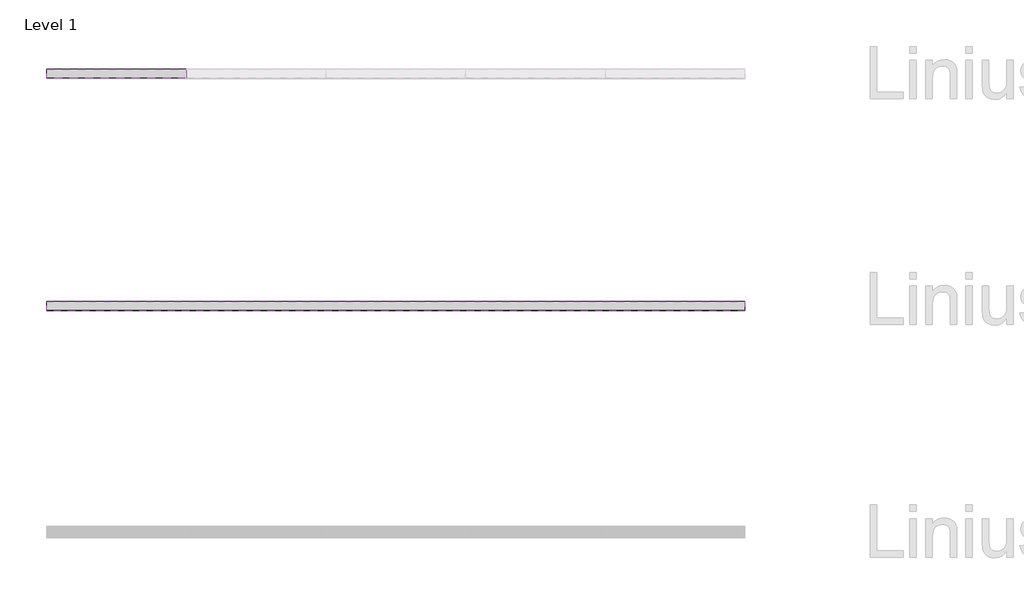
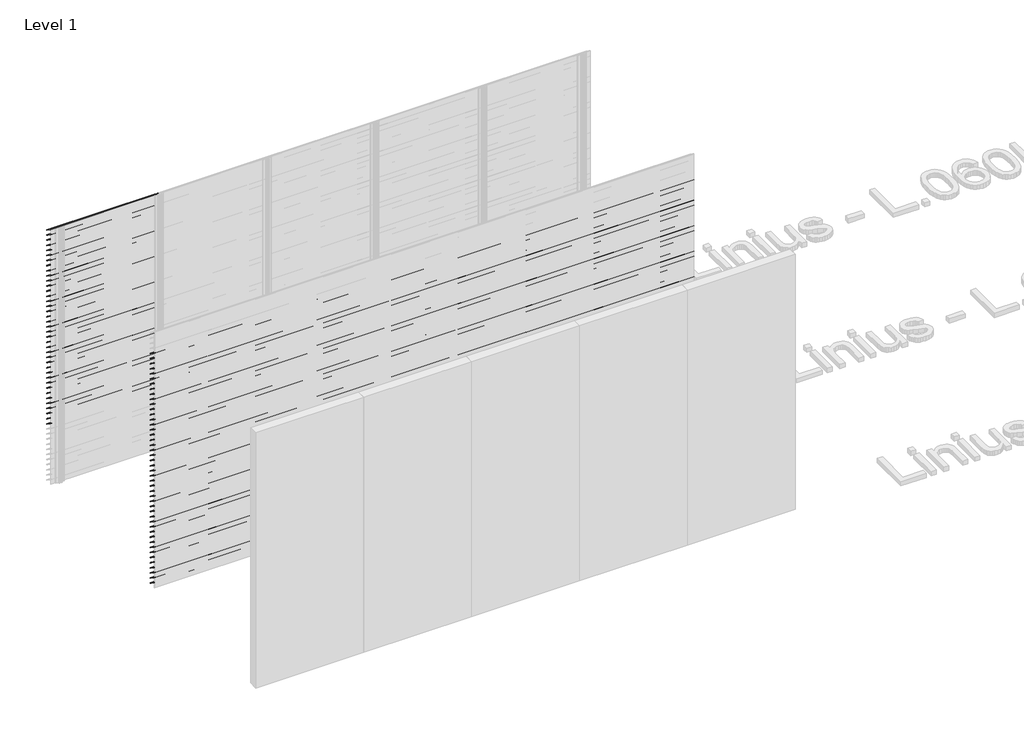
# One storey, part 7 of 153: 85 proxies.
"""IFC4 building model written with IfcOpenShell, lengths in millimetres."""

import ifcopenshell
import ifcopenshell.guid

model = None  # the IFC model being written
_history = None  # IfcOwnerHistory: only IFC2X3 demands one
_inside = {}  # id of a spatial element -> (the spatial element, [elements in it])
_under = {}  # id of a project, library or spatial element -> (it, [spatial elements below it])
_declared = {}  # id of a project -> (the project, [libraries it declares])
_typed = {}  # id of a type object -> (the type object, [elements of that type])
_made_of = {}  # id of a material, layer set ... -> (it, [elements and type objects made of it])


def new_model(schema):
    """Start an empty IFC model of exactly this schema.

    Asked for "IFC4X3", IfcOpenShell would pick the latest addendum, in which some entities
    have other attributes; the version numbers below select the first issue.
    IFC2X3 requires an IfcOwnerHistory on every rooted entity: one is made here for all.
    """
    global model, _history
    if schema == "IFC4X3":
        model = ifcopenshell.file(schema_version=(4, 3, 0, 0))
    else:
        model = ifcopenshell.file(schema=schema)
    _inside.clear()
    _under.clear()
    _declared.clear()
    _typed.clear()
    _made_of.clear()
    _history = None
    if model.schema == "IFC2X3":
        org = make("IfcOrganization", Name="unknown")
        user = make(
            "IfcPersonAndOrganization",
            ThePerson=make("IfcPerson", FamilyName="unknown"),
            TheOrganization=org,
        )
        app = make(
            "IfcApplication",
            ApplicationDeveloper=org,
            Version="unknown",
            ApplicationFullName="unknown",
            ApplicationIdentifier="unknown",
        )
        _history = make(
            "IfcOwnerHistory",
            OwningUser=user,
            OwningApplication=app,
            ChangeAction="ADDED",
            CreationDate=0,
        )
    return model


def make(cls, **values):
    """One entity of the class cls with the attributes given. An attribute that is None is left unset."""
    return model.create_entity(
        cls, **{name: value for name, value in values.items() if value is not None}
    )


def rooted(cls, **values):
    """An entity with a GlobalId (a new one), such as an element, a storey or a relation."""
    return make(cls, GlobalId=ifcopenshell.guid.new(), OwnerHistory=_history, **values)


def si_unit(unit_type, name, prefix=None):
    """IfcSIUnit, for example si_unit("LENGTHUNIT", "METRE", prefix="MILLI")."""
    return make("IfcSIUnit", UnitType=unit_type, Prefix=prefix, Name=name)


def assignment(units):
    """IfcUnitAssignment: the units of a project."""
    return None if units is None else make("IfcUnitAssignment", Units=units)


def point(xyz):
    """IfcCartesianPoint."""
    return None if xyz is None else make("IfcCartesianPoint", Coordinates=xyz)


def direction(xyz):
    """IfcDirection."""
    return None if xyz is None else make("IfcDirection", DirectionRatios=xyz)


def frame(location, z_axis=None, x_axis=None):
    """IfcAxis2Placement3D, a coordinate frame: its origin and axes. An axis left out is left unset."""
    return make(
        "IfcAxis2Placement3D",
        Location=point(location),
        Axis=direction(z_axis),
        RefDirection=direction(x_axis),
    )


def origin():
    """The frame at (0, 0, 0) with its axes left unset."""
    return frame((0.0, 0.0, 0.0))


def place(relative_to, where):
    """IfcLocalPlacement: puts the frame where relative to a parent placement (None: the world)."""
    return make(
        "IfcLocalPlacement", PlacementRelTo=relative_to, RelativePlacement=where
    )


def context(
    kind, dimensions, precision=None, world=None, true_north=None, identifier=None
):
    """IfcGeometricRepresentationContext, for example the 3D "Model" context."""
    return make(
        "IfcGeometricRepresentationContext",
        ContextIdentifier=identifier,
        ContextType=kind,
        CoordinateSpaceDimension=dimensions,
        Precision=precision,
        WorldCoordinateSystem=world,
        TrueNorth=true_north,
    )


def project(units=None, contexts=None):
    """IfcProject with its units and contexts."""
    return rooted(
        "IfcProject",
        Name="project",
        RepresentationContexts=contexts,
        UnitsInContext=assignment(units),
    )


def spatial(cls, under=None, at=None, **own):
    """A site, building, storey or space (cls), placed at a placement, below another one or the project."""
    s = rooted(cls, ObjectPlacement=at, **own)
    if under is not None:
        _under.setdefault(under.id(), (under, []))[1].append(s)
    return s


def polyline(points):
    """IfcPolyline through the points."""
    return make("IfcPolyline", Points=[point(p) for p in points])


def outline(outer, holes=None, kind="AREA"):
    """IfcArbitraryClosedProfileDef: a profile drawn as a closed curve; with holes, ...WithVoids."""
    if holes is None:
        return make("IfcArbitraryClosedProfileDef", ProfileType=kind, OuterCurve=outer)
    return make(
        "IfcArbitraryProfileDefWithVoids",
        ProfileType=kind,
        OuterCurve=outer,
        InnerCurves=holes,
    )


def extrude(swept, where, along, depth):
    """IfcExtrudedAreaSolid: the profile swept, set in the frame where, extruded along a direction by depth."""
    return make(
        "IfcExtrudedAreaSolid",
        SweptArea=swept,
        Position=where,
        ExtrudedDirection=direction(along),
        Depth=depth,
    )


def shape(context_of_items, identifier, shape_type, items):
    """IfcShapeRepresentation: the items that make up one representation, for example the "Body"."""
    return make(
        "IfcShapeRepresentation",
        ContextOfItems=context_of_items,
        RepresentationIdentifier=identifier,
        RepresentationType=shape_type,
        Items=items,
    )


def made_of(thing, what):
    """Note that an element or type object is made of a material, layer set ...; save() writes the relation."""
    if what is not None:
        _made_of.setdefault(what.id(), (what, []))[1].append(thing)
    return thing


def element(
    cls,
    number,
    at=None,
    inside=None,
    cuts=None,
    type_object=None,
    material=None,
    context=None,
    identifier="Body",
    shape_type=None,
    held_by="IfcProductDefinitionShape",
    body=None,
    shapes=None,
    **own,
):
    """One element of the class cls, such as IfcWall. Its Tag is "e" and its number.

    at: its placement. inside: the storey or other place that contains it. cuts: it is an
    opening in that element (IfcRelVoidsElement). A single representation is given by context,
    identifier, shape_type and body (its items); several are given by shapes. held_by: the class
    of the entity that holds the representations. save() writes the other relations.
    """
    e = rooted(cls, Tag="e%d" % number, ObjectPlacement=at, **own)
    if body is not None:
        shapes = [shape(context, identifier, shape_type, body)]
    if shapes is not None:
        e.Representation = make(held_by, Representations=shapes)
    if inside is not None:
        _inside.setdefault(inside.id(), (inside, []))[1].append(e)
    if cuts is not None:
        rooted(
            "IfcRelVoidsElement", RelatingBuildingElement=cuts, RelatedOpeningElement=e
        )
    if type_object is not None:
        _typed.setdefault(type_object.id(), (type_object, []))[1].append(e)
    return made_of(e, material)


def aggregate(whole, parts):
    """IfcRelAggregates: a whole, such as a stair, and the parts it consists of."""
    return rooted("IfcRelAggregates", RelatingObject=whole, RelatedObjects=parts)


def save(model, path):
    """Write the relations noted so far, then the file.

    IfcRelAggregates (storeys below a building ...), IfcRelContainedInSpatialStructure (elements
    in a storey), IfcRelDefinesByType, IfcRelAssociatesMaterial and IfcRelDeclares: one each for
    every whole, place, type object, material and project.
    """
    for whole, parts in _under.values():
        aggregate(whole, parts)
    for where, things in _inside.values():
        rooted(
            "IfcRelContainedInSpatialStructure",
            RelatedElements=things,
            RelatingStructure=where,
        )
    for kind, things in _typed.values():
        rooted("IfcRelDefinesByType", RelatedObjects=things, RelatingType=kind)
    for what, things in _made_of.values():
        rooted("IfcRelAssociatesMaterial", RelatedObjects=things, RelatingMaterial=what)
    for by, libraries in _declared.values():
        rooted("IfcRelDeclares", RelatingContext=by, RelatedDefinitions=libraries)
    model.write(path)


model = new_model("IFC4")

# Units and contexts
model_context = context("Model", 3, world=origin())
ifc_project = project(units=[si_unit("LENGTHUNIT", "METRE", prefix="MILLI")], contexts=[model_context])

# Site, building, storey
site = spatial("IfcSite", under=ifc_project)
building = spatial("IfcBuilding", under=site)
storey = spatial("IfcBuildingStorey", under=building, Name="Level 1", Elevation=0.0)

# Proxies
placement = place(None, origin())
element("IfcBuildingElementProxy", 1, Name="Wall Sweeps", at=placement, inside=storey, context=model_context, shape_type="SweptSolid", body=[
    extrude(outline(polyline([(7065.0270068, 2946.0), (7065.0270068, 2940.0), (7063.7770068, 2940.7216933), (7063.7770068, 2945.2538091), (6987.0270068, 2993.9915103), (6987.0270068, 3000.0), (6988.2770068, 3000.0), (6988.2770068, 2994.7377012), (7065.0270068, 2946.0)])), frame((466.6208097, 0.0, 0.0), z_axis=(1.0, 0.0, 0.0), x_axis=(0.0, 1.0, 0.0)), (0.0, 0.0, 1.0), 1200.0000002),
])
element("IfcBuildingElementProxy", 2, Name="Wall Sweeps", at=placement, inside=storey, context=model_context, shape_type="SweptSolid", body=[
    extrude(outline(polyline([(7065.0270068, 2886.0), (7065.0270068, 2880.0), (7063.7770068, 2880.7216933), (7063.7770068, 2885.2538091), (6987.0270068, 2933.9915103), (6987.0270068, 2940.0), (6988.2770068, 2940.0), (6988.2770068, 2934.7377012), (7065.0270068, 2886.0)])), frame((466.6208097, 0.0, 0.0), z_axis=(1.0, 0.0, 0.0), x_axis=(0.0, 1.0, 0.0)), (0.0, 0.0, 1.0), 1200.0000002),
])
element("IfcBuildingElementProxy", 3, Name="Wall Sweeps", at=placement, inside=storey, context=model_context, shape_type="SweptSolid", body=[
    extrude(outline(polyline([(7065.0270068, 2826.0), (7065.0270068, 2820.0), (7063.7770068, 2820.7216933), (7063.7770068, 2825.2538091), (6987.0270068, 2873.9915103), (6987.0270068, 2880.0), (6988.2770068, 2880.0), (6988.2770068, 2874.7377012), (7065.0270068, 2826.0)])), frame((466.6208097, 0.0, 0.0), z_axis=(1.0, 0.0, 0.0), x_axis=(0.0, 1.0, 0.0)), (0.0, 0.0, 1.0), 1200.0000002),
])
element("IfcBuildingElementProxy", 4, Name="Wall Sweeps", at=placement, inside=storey, context=model_context, shape_type="SweptSolid", body=[
    extrude(outline(polyline([(7065.0270068, 2766.0), (7065.0270068, 2760.0), (7063.7770068, 2760.7216933), (7063.7770068, 2765.2538091), (6987.0270068, 2813.9915103), (6987.0270068, 2820.0), (6988.2770068, 2820.0), (6988.2770068, 2814.7377012), (7065.0270068, 2766.0)])), frame((466.6208097, 0.0, 0.0), z_axis=(1.0, 0.0, 0.0), x_axis=(0.0, 1.0, 0.0)), (0.0, 0.0, 1.0), 1200.0000002),
])
element("IfcBuildingElementProxy", 5, Name="Wall Sweeps", at=placement, inside=storey, context=model_context, shape_type="SweptSolid", body=[
    extrude(outline(polyline([(7065.0270068, 2706.0), (7065.0270068, 2700.0), (7063.7770068, 2700.7216933), (7063.7770068, 2705.2538091), (6987.0270068, 2753.9915103), (6987.0270068, 2760.0), (6988.2770068, 2760.0), (6988.2770068, 2754.7377012), (7065.0270068, 2706.0)])), frame((466.6208097, 0.0, 0.0), z_axis=(1.0, 0.0, 0.0), x_axis=(0.0, 1.0, 0.0)), (0.0, 0.0, 1.0), 1200.0000002),
])
element("IfcBuildingElementProxy", 6, Name="Wall Sweeps", at=placement, inside=storey, context=model_context, shape_type="SweptSolid", body=[
    extrude(outline(polyline([(7065.0270068, 2646.0), (7065.0270068, 2640.0), (7063.7770068, 2640.7216933), (7063.7770068, 2645.2538091), (6987.0270068, 2693.9915103), (6987.0270068, 2700.0), (6988.2770068, 2700.0), (6988.2770068, 2694.7377012), (7065.0270068, 2646.0)])), frame((466.6208097, 0.0, 0.0), z_axis=(1.0, 0.0, 0.0), x_axis=(0.0, 1.0, 0.0)), (0.0, 0.0, 1.0), 1200.0000002),
])
element("IfcBuildingElementProxy", 7, Name="Wall Sweeps", at=placement, inside=storey, context=model_context, shape_type="SweptSolid", body=[
    extrude(outline(polyline([(7065.0270068, 2586.0), (7065.0270068, 2580.0), (7063.7770068, 2580.7216933), (7063.7770068, 2585.2538091), (6987.0270068, 2633.9915103), (6987.0270068, 2640.0), (6988.2770068, 2640.0), (6988.2770068, 2634.7377012), (7065.0270068, 2586.0)])), frame((466.6208097, 0.0, 0.0), z_axis=(1.0, 0.0, 0.0), x_axis=(0.0, 1.0, 0.0)), (0.0, 0.0, 1.0), 1200.0000002),
])
element("IfcBuildingElementProxy", 8, Name="Wall Sweeps", at=placement, inside=storey, context=model_context, shape_type="SweptSolid", body=[
    extrude(outline(polyline([(7065.0270068, 2526.0), (7065.0270068, 2520.0), (7063.7770068, 2520.7216933), (7063.7770068, 2525.2538091), (6987.0270068, 2573.9915103), (6987.0270068, 2580.0), (6988.2770068, 2580.0), (6988.2770068, 2574.7377012), (7065.0270068, 2526.0)])), frame((466.6208097, 0.0, 0.0), z_axis=(1.0, 0.0, 0.0), x_axis=(0.0, 1.0, 0.0)), (0.0, 0.0, 1.0), 1200.0000002),
])
element("IfcBuildingElementProxy", 9, Name="Wall Sweeps", at=placement, inside=storey, context=model_context, shape_type="SweptSolid", body=[
    extrude(outline(polyline([(7065.0270068, 2466.0), (7065.0270068, 2460.0), (7063.7770068, 2460.7216933), (7063.7770068, 2465.2538091), (6987.0270068, 2513.9915103), (6987.0270068, 2520.0), (6988.2770068, 2520.0), (6988.2770068, 2514.7377012), (7065.0270068, 2466.0)])), frame((466.6208097, 0.0, 0.0), z_axis=(1.0, 0.0, 0.0), x_axis=(0.0, 1.0, 0.0)), (0.0, 0.0, 1.0), 1200.0000002),
])
element("IfcBuildingElementProxy", 10, Name="Wall Sweeps", at=placement, inside=storey, context=model_context, shape_type="SweptSolid", body=[
    extrude(outline(polyline([(7065.0270068, 2406.0), (7065.0270068, 2400.0), (7063.7770068, 2400.7216933), (7063.7770068, 2405.2538091), (6987.0270068, 2453.9915103), (6987.0270068, 2460.0), (6988.2770068, 2460.0), (6988.2770068, 2454.7377012), (7065.0270068, 2406.0)])), frame((466.6208097, 0.0, 0.0), z_axis=(1.0, 0.0, 0.0), x_axis=(0.0, 1.0, 0.0)), (0.0, 0.0, 1.0), 1200.0000002),
])
element("IfcBuildingElementProxy", 11, Name="Wall Sweeps", at=placement, inside=storey, context=model_context, shape_type="SweptSolid", body=[
    extrude(outline(polyline([(7065.0270068, 2346.0), (7065.0270068, 2340.0), (7063.7770068, 2340.7216933), (7063.7770068, 2345.2538091), (6987.0270068, 2393.9915103), (6987.0270068, 2400.0), (6988.2770068, 2400.0), (6988.2770068, 2394.7377012), (7065.0270068, 2346.0)])), frame((466.6208097, 0.0, 0.0), z_axis=(1.0, 0.0, 0.0), x_axis=(0.0, 1.0, 0.0)), (0.0, 0.0, 1.0), 1200.0000002),
])
element("IfcBuildingElementProxy", 12, Name="Wall Sweeps", at=placement, inside=storey, context=model_context, shape_type="SweptSolid", body=[
    extrude(outline(polyline([(7065.0270068, 2286.0), (7065.0270068, 2280.0), (7063.7770068, 2280.7216933), (7063.7770068, 2285.2538091), (6987.0270068, 2333.9915103), (6987.0270068, 2340.0), (6988.2770068, 2340.0), (6988.2770068, 2334.7377012), (7065.0270068, 2286.0)])), frame((466.6208097, 0.0, 0.0), z_axis=(1.0, 0.0, 0.0), x_axis=(0.0, 1.0, 0.0)), (0.0, 0.0, 1.0), 1200.0000002),
])
element("IfcBuildingElementProxy", 13, Name="Wall Sweeps", at=placement, inside=storey, context=model_context, shape_type="SweptSolid", body=[
    extrude(outline(polyline([(7065.0270068, 2226.0), (7065.0270068, 2220.0), (7063.7770068, 2220.7216933), (7063.7770068, 2225.2538091), (6987.0270068, 2273.9915103), (6987.0270068, 2280.0), (6988.2770068, 2280.0), (6988.2770068, 2274.7377012), (7065.0270068, 2226.0)])), frame((466.6208097, 0.0, 0.0), z_axis=(1.0, 0.0, 0.0), x_axis=(0.0, 1.0, 0.0)), (0.0, 0.0, 1.0), 1200.0000002),
])
element("IfcBuildingElementProxy", 14, Name="Wall Sweeps", at=placement, inside=storey, context=model_context, shape_type="SweptSolid", body=[
    extrude(outline(polyline([(7065.0270068, 2166.0), (7065.0270068, 2160.0), (7063.7770068, 2160.7216933), (7063.7770068, 2165.2538091), (6987.0270068, 2213.9915103), (6987.0270068, 2220.0), (6988.2770068, 2220.0), (6988.2770068, 2214.7377012), (7065.0270068, 2166.0)])), frame((466.6208097, 0.0, 0.0), z_axis=(1.0, 0.0, 0.0), x_axis=(0.0, 1.0, 0.0)), (0.0, 0.0, 1.0), 1200.0000002),
])
element("IfcBuildingElementProxy", 15, Name="Wall Sweeps", at=placement, inside=storey, context=model_context, shape_type="SweptSolid", body=[
    extrude(outline(polyline([(7065.0270068, 2106.0), (7065.0270068, 2100.0), (7063.7770068, 2100.7216933), (7063.7770068, 2105.2538091), (6987.0270068, 2153.9915103), (6987.0270068, 2160.0), (6988.2770068, 2160.0), (6988.2770068, 2154.7377012), (7065.0270068, 2106.0)])), frame((466.6208097, 0.0, 0.0), z_axis=(1.0, 0.0, 0.0), x_axis=(0.0, 1.0, 0.0)), (0.0, 0.0, 1.0), 1200.0000002),
])
element("IfcBuildingElementProxy", 16, Name="Wall Sweeps", at=placement, inside=storey, context=model_context, shape_type="SweptSolid", body=[
    extrude(outline(polyline([(7065.0270068, 2046.0), (7065.0270068, 2040.0), (7063.7770068, 2040.7216933), (7063.7770068, 2045.2538091), (6987.0270068, 2093.9915103), (6987.0270068, 2100.0), (6988.2770068, 2100.0), (6988.2770068, 2094.7377012), (7065.0270068, 2046.0)])), frame((466.6208097, 0.0, 0.0), z_axis=(1.0, 0.0, 0.0), x_axis=(0.0, 1.0, 0.0)), (0.0, 0.0, 1.0), 1200.0000002),
])
element("IfcBuildingElementProxy", 17, Name="Wall Sweeps", at=placement, inside=storey, context=model_context, shape_type="SweptSolid", body=[
    extrude(outline(polyline([(7065.0270068, 1986.0), (7065.0270068, 1980.0), (7063.7770068, 1980.7216933), (7063.7770068, 1985.2538091), (6987.0270068, 2033.9915103), (6987.0270068, 2040.0), (6988.2770068, 2040.0), (6988.2770068, 2034.7377012), (7065.0270068, 1986.0)])), frame((466.6208097, 0.0, 0.0), z_axis=(1.0, 0.0, 0.0), x_axis=(0.0, 1.0, 0.0)), (0.0, 0.0, 1.0), 1200.0000002),
])
element("IfcBuildingElementProxy", 18, Name="Wall Sweeps", at=placement, inside=storey, context=model_context, shape_type="SweptSolid", body=[
    extrude(outline(polyline([(7065.0270068, 1926.0), (7065.0270068, 1920.0), (7063.7770068, 1920.7216933), (7063.7770068, 1925.2538091), (6987.0270068, 1973.9915103), (6987.0270068, 1980.0), (6988.2770068, 1980.0), (6988.2770068, 1974.7377012), (7065.0270068, 1926.0)])), frame((466.6208097, 0.0, 0.0), z_axis=(1.0, 0.0, 0.0), x_axis=(0.0, 1.0, 0.0)), (0.0, 0.0, 1.0), 1200.0000002),
])
element("IfcBuildingElementProxy", 19, Name="Wall Sweeps", at=placement, inside=storey, context=model_context, shape_type="SweptSolid", body=[
    extrude(outline(polyline([(7065.0270068, 1866.0), (7065.0270068, 1860.0), (7063.7770068, 1860.7216933), (7063.7770068, 1865.2538091), (6987.0270068, 1913.9915103), (6987.0270068, 1920.0), (6988.2770068, 1920.0), (6988.2770068, 1914.7377012), (7065.0270068, 1866.0)])), frame((466.6208097, 0.0, 0.0), z_axis=(1.0, 0.0, 0.0), x_axis=(0.0, 1.0, 0.0)), (0.0, 0.0, 1.0), 1200.0000002),
])
element("IfcBuildingElementProxy", 20, Name="Wall Sweeps", at=placement, inside=storey, context=model_context, shape_type="SweptSolid", body=[
    extrude(outline(polyline([(7065.0270068, 1806.0), (7065.0270068, 1800.0), (7063.7770068, 1800.7216933), (7063.7770068, 1805.2538091), (6987.0270068, 1853.9915103), (6987.0270068, 1860.0), (6988.2770068, 1860.0), (6988.2770068, 1854.7377012), (7065.0270068, 1806.0)])), frame((466.6208097, 0.0, 0.0), z_axis=(1.0, 0.0, 0.0), x_axis=(0.0, 1.0, 0.0)), (0.0, 0.0, 1.0), 1200.0000002),
])
element("IfcBuildingElementProxy", 21, Name="Wall Sweeps", at=placement, inside=storey, context=model_context, shape_type="SweptSolid", body=[
    extrude(outline(polyline([(7065.0270068, 1746.0), (7065.0270068, 1740.0), (7063.7770068, 1740.7216933), (7063.7770068, 1745.2538091), (6987.0270068, 1793.9915103), (6987.0270068, 1800.0), (6988.2770068, 1800.0), (6988.2770068, 1794.7377012), (7065.0270068, 1746.0)])), frame((466.6208097, 0.0, 0.0), z_axis=(1.0, 0.0, 0.0), x_axis=(0.0, 1.0, 0.0)), (0.0, 0.0, 1.0), 1200.0000002),
])
element("IfcBuildingElementProxy", 22, Name="Wall Sweeps", at=placement, inside=storey, context=model_context, shape_type="SweptSolid", body=[
    extrude(outline(polyline([(7065.0270068, 1686.0), (7065.0270068, 1680.0), (7063.7770068, 1680.7216933), (7063.7770068, 1685.2538091), (6987.0270068, 1733.9915103), (6987.0270068, 1740.0), (6988.2770068, 1740.0), (6988.2770068, 1734.7377012), (7065.0270068, 1686.0)])), frame((466.6208097, 0.0, 0.0), z_axis=(1.0, 0.0, 0.0), x_axis=(0.0, 1.0, 0.0)), (0.0, 0.0, 1.0), 1200.0000002),
])
element("IfcBuildingElementProxy", 23, Name="Wall Sweeps", at=placement, inside=storey, context=model_context, shape_type="SweptSolid", body=[
    extrude(outline(polyline([(7065.0270068, 1626.0), (7065.0270068, 1620.0), (7063.7770068, 1620.7216933), (7063.7770068, 1625.2538091), (6987.0270068, 1673.9915103), (6987.0270068, 1680.0), (6988.2770068, 1680.0), (6988.2770068, 1674.7377012), (7065.0270068, 1626.0)])), frame((466.6208097, 0.0, 0.0), z_axis=(1.0, 0.0, 0.0), x_axis=(0.0, 1.0, 0.0)), (0.0, 0.0, 1.0), 1200.0000002),
])
element("IfcBuildingElementProxy", 24, Name="Wall Sweeps", at=placement, inside=storey, context=model_context, shape_type="SweptSolid", body=[
    extrude(outline(polyline([(7065.0270068, 1566.0), (7065.0270068, 1560.0), (7063.7770068, 1560.7216933), (7063.7770068, 1565.2538091), (6987.0270068, 1613.9915103), (6987.0270068, 1620.0), (6988.2770068, 1620.0), (6988.2770068, 1614.7377012), (7065.0270068, 1566.0)])), frame((466.6208097, 0.0, 0.0), z_axis=(1.0, 0.0, 0.0), x_axis=(0.0, 1.0, 0.0)), (0.0, 0.0, 1.0), 1200.0000002),
])
element("IfcBuildingElementProxy", 25, Name="Wall Sweeps", at=placement, inside=storey, context=model_context, shape_type="SweptSolid", body=[
    extrude(outline(polyline([(7065.0270068, 1506.0), (7065.0270068, 1500.0), (7063.7770068, 1500.7216933), (7063.7770068, 1505.2538091), (6987.0270068, 1553.9915103), (6987.0270068, 1560.0), (6988.2770068, 1560.0), (6988.2770068, 1554.7377012), (7065.0270068, 1506.0)])), frame((466.6208097, 0.0, 0.0), z_axis=(1.0, 0.0, 0.0), x_axis=(0.0, 1.0, 0.0)), (0.0, 0.0, 1.0), 1200.0000002),
])
element("IfcBuildingElementProxy", 26, Name="Wall Sweeps", at=placement, inside=storey, context=model_context, shape_type="SweptSolid", body=[
    extrude(outline(polyline([(7065.0270068, 1446.0), (7065.0270068, 1440.0), (7063.7770068, 1440.7216933), (7063.7770068, 1445.2538091), (6987.0270068, 1493.9915103), (6987.0270068, 1500.0), (6988.2770068, 1500.0), (6988.2770068, 1494.7377012), (7065.0270068, 1446.0)])), frame((466.6208097, 0.0, 0.0), z_axis=(1.0, 0.0, 0.0), x_axis=(0.0, 1.0, 0.0)), (0.0, 0.0, 1.0), 1200.0000002),
])
element("IfcBuildingElementProxy", 27, Name="Wall Sweeps", at=placement, inside=storey, context=model_context, shape_type="SweptSolid", body=[
    extrude(outline(polyline([(7065.0270068, 1386.0), (7065.0270068, 1380.0), (7063.7770068, 1380.7216933), (7063.7770068, 1385.2538091), (6987.0270068, 1433.9915103), (6987.0270068, 1440.0), (6988.2770068, 1440.0), (6988.2770068, 1434.7377012), (7065.0270068, 1386.0)])), frame((466.6208097, 0.0, 0.0), z_axis=(1.0, 0.0, 0.0), x_axis=(0.0, 1.0, 0.0)), (0.0, 0.0, 1.0), 1200.0000002),
])
element("IfcBuildingElementProxy", 28, Name="Wall Sweeps", at=placement, inside=storey, context=model_context, shape_type="SweptSolid", body=[
    extrude(outline(polyline([(7065.0270068, 1326.0), (7065.0270068, 1320.0), (7063.7770068, 1320.7216933), (7063.7770068, 1325.2538091), (6987.0270068, 1373.9915103), (6987.0270068, 1380.0), (6988.2770068, 1380.0), (6988.2770068, 1374.7377012), (7065.0270068, 1326.0)])), frame((466.6208097, 0.0, 0.0), z_axis=(1.0, 0.0, 0.0), x_axis=(0.0, 1.0, 0.0)), (0.0, 0.0, 1.0), 1200.0000002),
])
element("IfcBuildingElementProxy", 29, Name="Wall Sweeps", at=placement, inside=storey, context=model_context, shape_type="SweptSolid", body=[
    extrude(outline(polyline([(7065.0270068, 1266.0), (7065.0270068, 1260.0), (7063.7770068, 1260.7216933), (7063.7770068, 1265.2538091), (6987.0270068, 1313.9915103), (6987.0270068, 1320.0), (6988.2770068, 1320.0), (6988.2770068, 1314.7377012), (7065.0270068, 1266.0)])), frame((466.6208097, 0.0, 0.0), z_axis=(1.0, 0.0, 0.0), x_axis=(0.0, 1.0, 0.0)), (0.0, 0.0, 1.0), 1200.0000002),
])
element("IfcBuildingElementProxy", 30, Name="Wall Sweeps", at=placement, inside=storey, context=model_context, shape_type="SweptSolid", body=[
    extrude(outline(polyline([(7065.0270068, 1206.0), (7065.0270068, 1200.0), (7063.7770068, 1200.7216933), (7063.7770068, 1205.2538091), (6987.0270068, 1253.9915103), (6987.0270068, 1260.0), (6988.2770068, 1260.0), (6988.2770068, 1254.7377012), (7065.0270068, 1206.0)])), frame((466.6208097, 0.0, 0.0), z_axis=(1.0, 0.0, 0.0), x_axis=(0.0, 1.0, 0.0)), (0.0, 0.0, 1.0), 1200.0000002),
])
element("IfcBuildingElementProxy", 31, Name="Wall Sweeps", at=placement, inside=storey, context=model_context, shape_type="SweptSolid", body=[
    extrude(outline(polyline([(7065.0270068, 1146.0), (7065.0270068, 1140.0), (7063.7770068, 1140.7216933), (7063.7770068, 1145.2538091), (6987.0270068, 1193.9915103), (6987.0270068, 1200.0), (6988.2770068, 1200.0), (6988.2770068, 1194.7377012), (7065.0270068, 1146.0)])), frame((466.6208097, 0.0, 0.0), z_axis=(1.0, 0.0, 0.0), x_axis=(0.0, 1.0, 0.0)), (0.0, 0.0, 1.0), 1200.0000002),
])
element("IfcBuildingElementProxy", 32, Name="Wall Sweeps", at=placement, inside=storey, context=model_context, shape_type="SweptSolid", body=[
    extrude(outline(polyline([(7065.0270068, 1086.0), (7065.0270068, 1080.0), (7063.7770068, 1080.7216933), (7063.7770068, 1085.2538091), (6987.0270068, 1133.9915103), (6987.0270068, 1140.0), (6988.2770068, 1140.0), (6988.2770068, 1134.7377012), (7065.0270068, 1086.0)])), frame((466.6208097, 0.0, 0.0), z_axis=(1.0, 0.0, 0.0), x_axis=(0.0, 1.0, 0.0)), (0.0, 0.0, 1.0), 1200.0000002),
])
element("IfcBuildingElementProxy", 33, Name="Wall Sweeps", at=placement, inside=storey, context=model_context, shape_type="SweptSolid", body=[
    extrude(outline(polyline([(7065.0270068, 1026.0), (7065.0270068, 1020.0), (7063.7770068, 1020.7216933), (7063.7770068, 1025.2538091), (6987.0270068, 1073.9915103), (6987.0270068, 1080.0), (6988.2770068, 1080.0), (6988.2770068, 1074.7377012), (7065.0270068, 1026.0)])), frame((466.6208097, 0.0, 0.0), z_axis=(1.0, 0.0, 0.0), x_axis=(0.0, 1.0, 0.0)), (0.0, 0.0, 1.0), 1200.0000002),
])
element("IfcBuildingElementProxy", 34, Name="Wall Sweeps", at=placement, inside=storey, context=model_context, shape_type="SweptSolid", body=[
    extrude(outline(polyline([(7065.0270068, 966.0), (7065.0270068, 960.0), (7063.7770068, 960.7216933), (7063.7770068, 965.2538091), (6987.0270068, 1013.9915103), (6987.0270068, 1020.0), (6988.2770068, 1020.0), (6988.2770068, 1014.7377012), (7065.0270068, 966.0)])), frame((466.6208097, 0.0, 0.0), z_axis=(1.0, 0.0, 0.0), x_axis=(0.0, 1.0, 0.0)), (0.0, 0.0, 1.0), 1200.0000002),
])
element("IfcBuildingElementProxy", 35, Name="Wall Sweeps", at=placement, inside=storey, context=model_context, shape_type="SweptSolid", body=[
    extrude(outline(polyline([(7065.0270068, 906.0), (7065.0270068, 900.0), (7063.7770068, 900.7216933), (7063.7770068, 905.2538091), (6987.0270068, 953.9915103), (6987.0270068, 960.0), (6988.2770068, 960.0), (6988.2770068, 954.7377012), (7065.0270068, 906.0)])), frame((466.6208097, 0.0, 0.0), z_axis=(1.0, 0.0, 0.0), x_axis=(0.0, 1.0, 0.0)), (0.0, 0.0, 1.0), 1200.0000002),
])
element("IfcBuildingElementProxy", 36, Name="Wall Sweeps", at=placement, inside=storey, context=model_context, shape_type="SweptSolid", body=[
    extrude(outline(polyline([(7065.0270068, 846.0), (7065.0270068, 840.0), (7063.7770068, 840.7216933), (7063.7770068, 845.2538091), (6987.0270068, 893.9915103), (6987.0270068, 900.0), (6988.2770068, 900.0), (6988.2770068, 894.7377012), (7065.0270068, 846.0)])), frame((466.6208097, 0.0, 0.0), z_axis=(1.0, 0.0, 0.0), x_axis=(0.0, 1.0, 0.0)), (0.0, 0.0, 1.0), 1200.0000002),
])
element("IfcBuildingElementProxy", 37, Name="Wall Sweeps", at=placement, inside=storey, context=model_context, shape_type="SweptSolid", body=[
    extrude(outline(polyline([(7065.0270068, 786.0), (7065.0270068, 780.0), (7063.7770068, 780.7216933), (7063.7770068, 785.2538091), (6987.0270068, 833.9915103), (6987.0270068, 840.0), (6988.2770068, 840.0), (6988.2770068, 834.7377012), (7065.0270068, 786.0)])), frame((466.6208097, 0.0, 0.0), z_axis=(1.0, 0.0, 0.0), x_axis=(0.0, 1.0, 0.0)), (0.0, 0.0, 1.0), 1200.0000002),
])
element("IfcBuildingElementProxy", 38, Name="Wall Sweeps", at=placement, inside=storey, context=model_context, shape_type="SweptSolid", body=[
    extrude(outline(polyline([(7065.0270068, 726.0), (7065.0270068, 720.0), (7063.7770068, 720.7216933), (7063.7770068, 725.2538091), (6987.0270068, 773.9915103), (6987.0270068, 780.0), (6988.2770068, 780.0), (6988.2770068, 774.7377012), (7065.0270068, 726.0)])), frame((466.6208097, 0.0, 0.0), z_axis=(1.0, 0.0, 0.0), x_axis=(0.0, 1.0, 0.0)), (0.0, 0.0, 1.0), 1200.0000002),
])
element("IfcBuildingElementProxy", 39, Name="Wall Sweeps", at=placement, inside=storey, context=model_context, shape_type="SweptSolid", body=[
    extrude(outline(polyline([(7065.0270068, 666.0), (7065.0270068, 660.0), (7063.7770068, 660.7216933), (7063.7770068, 665.2538091), (6987.0270068, 713.9915103), (6987.0270068, 720.0), (6988.2770068, 720.0), (6988.2770068, 714.7377012), (7065.0270068, 666.0)])), frame((466.6208097, 0.0, 0.0), z_axis=(1.0, 0.0, 0.0), x_axis=(0.0, 1.0, 0.0)), (0.0, 0.0, 1.0), 1200.0000002),
])
element("IfcBuildingElementProxy", 40, Name="Wall Sweeps", at=placement, inside=storey, context=model_context, shape_type="SweptSolid", body=[
    extrude(outline(polyline([(5065.0270068, 2706.0), (5065.0270068, 2700.0), (5063.7770068, 2700.7216933), (5063.7770068, 2705.2538091), (4987.0270068, 2753.9915103), (4987.0270068, 2760.0), (4988.2770068, 2760.0), (4988.2770068, 2754.7377012), (5065.0270068, 2706.0)])), frame((466.6208097, 0.0, 0.0), z_axis=(1.0, 0.0, 0.0), x_axis=(0.0, 1.0, 0.0)), (0.0, 0.0, 1.0), 6000.0),
])
element("IfcBuildingElementProxy", 41, Name="Wall Sweeps", at=placement, inside=storey, context=model_context, shape_type="SweptSolid", body=[
    extrude(outline(polyline([(5065.0270068, 2646.0), (5065.0270068, 2640.0), (5063.7770068, 2640.7216933), (5063.7770068, 2645.2538091), (4987.0270068, 2693.9915103), (4987.0270068, 2700.0), (4988.2770068, 2700.0), (4988.2770068, 2694.7377012), (5065.0270068, 2646.0)])), frame((466.6208097, 0.0, 0.0), z_axis=(1.0, 0.0, 0.0), x_axis=(0.0, 1.0, 0.0)), (0.0, 0.0, 1.0), 6000.0),
])
element("IfcBuildingElementProxy", 42, Name="Wall Sweeps", at=placement, inside=storey, context=model_context, shape_type="SweptSolid", body=[
    extrude(outline(polyline([(5065.0270068, 2586.0), (5065.0270068, 2580.0), (5063.7770068, 2580.7216933), (5063.7770068, 2585.2538091), (4987.0270068, 2633.9915103), (4987.0270068, 2640.0), (4988.2770068, 2640.0), (4988.2770068, 2634.7377012), (5065.0270068, 2586.0)])), frame((466.6208097, 0.0, 0.0), z_axis=(1.0, 0.0, 0.0), x_axis=(0.0, 1.0, 0.0)), (0.0, 0.0, 1.0), 6000.0),
])
element("IfcBuildingElementProxy", 43, Name="Wall Sweeps", at=placement, inside=storey, context=model_context, shape_type="SweptSolid", body=[
    extrude(outline(polyline([(5065.0270068, 2526.0), (5065.0270068, 2520.0), (5063.7770068, 2520.7216933), (5063.7770068, 2525.2538091), (4987.0270068, 2573.9915103), (4987.0270068, 2580.0), (4988.2770068, 2580.0), (4988.2770068, 2574.7377012), (5065.0270068, 2526.0)])), frame((466.6208097, 0.0, 0.0), z_axis=(1.0, 0.0, 0.0), x_axis=(0.0, 1.0, 0.0)), (0.0, 0.0, 1.0), 6000.0),
])
element("IfcBuildingElementProxy", 44, Name="Wall Sweeps", at=placement, inside=storey, context=model_context, shape_type="SweptSolid", body=[
    extrude(outline(polyline([(5065.0270068, 2466.0), (5065.0270068, 2460.0), (5063.7770068, 2460.7216933), (5063.7770068, 2465.2538091), (4987.0270068, 2513.9915103), (4987.0270068, 2520.0), (4988.2770068, 2520.0), (4988.2770068, 2514.7377012), (5065.0270068, 2466.0)])), frame((466.6208097, 0.0, 0.0), z_axis=(1.0, 0.0, 0.0), x_axis=(0.0, 1.0, 0.0)), (0.0, 0.0, 1.0), 6000.0),
])
element("IfcBuildingElementProxy", 45, Name="Wall Sweeps", at=placement, inside=storey, context=model_context, shape_type="SweptSolid", body=[
    extrude(outline(polyline([(5065.0270068, 2406.0), (5065.0270068, 2400.0), (5063.7770068, 2400.7216933), (5063.7770068, 2405.2538091), (4987.0270068, 2453.9915103), (4987.0270068, 2460.0), (4988.2770068, 2460.0), (4988.2770068, 2454.7377012), (5065.0270068, 2406.0)])), frame((466.6208097, 0.0, 0.0), z_axis=(1.0, 0.0, 0.0), x_axis=(0.0, 1.0, 0.0)), (0.0, 0.0, 1.0), 6000.0),
])
element("IfcBuildingElementProxy", 46, Name="Wall Sweeps", at=placement, inside=storey, context=model_context, shape_type="SweptSolid", body=[
    extrude(outline(polyline([(5065.0270068, 2346.0), (5065.0270068, 2340.0), (5063.7770068, 2340.7216933), (5063.7770068, 2345.2538091), (4987.0270068, 2393.9915103), (4987.0270068, 2400.0), (4988.2770068, 2400.0), (4988.2770068, 2394.7377012), (5065.0270068, 2346.0)])), frame((466.6208097, 0.0, 0.0), z_axis=(1.0, 0.0, 0.0), x_axis=(0.0, 1.0, 0.0)), (0.0, 0.0, 1.0), 6000.0),
])
element("IfcBuildingElementProxy", 47, Name="Wall Sweeps", at=placement, inside=storey, context=model_context, shape_type="SweptSolid", body=[
    extrude(outline(polyline([(5065.0270068, 2286.0), (5065.0270068, 2280.0), (5063.7770068, 2280.7216933), (5063.7770068, 2285.2538091), (4987.0270068, 2333.9915103), (4987.0270068, 2340.0), (4988.2770068, 2340.0), (4988.2770068, 2334.7377012), (5065.0270068, 2286.0)])), frame((466.6208097, 0.0, 0.0), z_axis=(1.0, 0.0, 0.0), x_axis=(0.0, 1.0, 0.0)), (0.0, 0.0, 1.0), 6000.0),
])
element("IfcBuildingElementProxy", 48, Name="Wall Sweeps", at=placement, inside=storey, context=model_context, shape_type="SweptSolid", body=[
    extrude(outline(polyline([(5065.0270068, 2226.0), (5065.0270068, 2220.0), (5063.7770068, 2220.7216933), (5063.7770068, 2225.2538091), (4987.0270068, 2273.9915103), (4987.0270068, 2280.0), (4988.2770068, 2280.0), (4988.2770068, 2274.7377012), (5065.0270068, 2226.0)])), frame((466.6208097, 0.0, 0.0), z_axis=(1.0, 0.0, 0.0), x_axis=(0.0, 1.0, 0.0)), (0.0, 0.0, 1.0), 6000.0),
])
element("IfcBuildingElementProxy", 49, Name="Wall Sweeps", at=placement, inside=storey, context=model_context, shape_type="SweptSolid", body=[
    extrude(outline(polyline([(5065.0270068, 2166.0), (5065.0270068, 2160.0), (5063.7770068, 2160.7216933), (5063.7770068, 2165.2538091), (4987.0270068, 2213.9915103), (4987.0270068, 2220.0), (4988.2770068, 2220.0), (4988.2770068, 2214.7377012), (5065.0270068, 2166.0)])), frame((466.6208097, 0.0, 0.0), z_axis=(1.0, 0.0, 0.0), x_axis=(0.0, 1.0, 0.0)), (0.0, 0.0, 1.0), 6000.0),
])
element("IfcBuildingElementProxy", 50, Name="Wall Sweeps", at=placement, inside=storey, context=model_context, shape_type="SweptSolid", body=[
    extrude(outline(polyline([(5065.0270068, 2106.0), (5065.0270068, 2100.0), (5063.7770068, 2100.7216933), (5063.7770068, 2105.2538091), (4987.0270068, 2153.9915103), (4987.0270068, 2160.0), (4988.2770068, 2160.0), (4988.2770068, 2154.7377012), (5065.0270068, 2106.0)])), frame((466.6208097, 0.0, 0.0), z_axis=(1.0, 0.0, 0.0), x_axis=(0.0, 1.0, 0.0)), (0.0, 0.0, 1.0), 6000.0),
])
element("IfcBuildingElementProxy", 51, Name="Wall Sweeps", at=placement, inside=storey, context=model_context, shape_type="SweptSolid", body=[
    extrude(outline(polyline([(5065.0270068, 2046.0), (5065.0270068, 2040.0), (5063.7770068, 2040.7216933), (5063.7770068, 2045.2538091), (4987.0270068, 2093.9915103), (4987.0270068, 2100.0), (4988.2770068, 2100.0), (4988.2770068, 2094.7377012), (5065.0270068, 2046.0)])), frame((466.6208097, 0.0, 0.0), z_axis=(1.0, 0.0, 0.0), x_axis=(0.0, 1.0, 0.0)), (0.0, 0.0, 1.0), 6000.0),
])
element("IfcBuildingElementProxy", 52, Name="Wall Sweeps", at=placement, inside=storey, context=model_context, shape_type="SweptSolid", body=[
    extrude(outline(polyline([(5065.0270068, 1986.0), (5065.0270068, 1980.0), (5063.7770068, 1980.7216933), (5063.7770068, 1985.2538091), (4987.0270068, 2033.9915103), (4987.0270068, 2040.0), (4988.2770068, 2040.0), (4988.2770068, 2034.7377012), (5065.0270068, 1986.0)])), frame((466.6208097, 0.0, 0.0), z_axis=(1.0, 0.0, 0.0), x_axis=(0.0, 1.0, 0.0)), (0.0, 0.0, 1.0), 6000.0),
])
element("IfcBuildingElementProxy", 53, Name="Wall Sweeps", at=placement, inside=storey, context=model_context, shape_type="SweptSolid", body=[
    extrude(outline(polyline([(5065.0270068, 1926.0), (5065.0270068, 1920.0), (5063.7770068, 1920.7216933), (5063.7770068, 1925.2538091), (4987.0270068, 1973.9915103), (4987.0270068, 1980.0), (4988.2770068, 1980.0), (4988.2770068, 1974.7377012), (5065.0270068, 1926.0)])), frame((466.6208097, 0.0, 0.0), z_axis=(1.0, 0.0, 0.0), x_axis=(0.0, 1.0, 0.0)), (0.0, 0.0, 1.0), 6000.0),
])
element("IfcBuildingElementProxy", 54, Name="Wall Sweeps", at=placement, inside=storey, context=model_context, shape_type="SweptSolid", body=[
    extrude(outline(polyline([(5065.0270068, 1866.0), (5065.0270068, 1860.0), (5063.7770068, 1860.7216933), (5063.7770068, 1865.2538091), (4987.0270068, 1913.9915103), (4987.0270068, 1920.0), (4988.2770068, 1920.0), (4988.2770068, 1914.7377012), (5065.0270068, 1866.0)])), frame((466.6208097, 0.0, 0.0), z_axis=(1.0, 0.0, 0.0), x_axis=(0.0, 1.0, 0.0)), (0.0, 0.0, 1.0), 6000.0),
])
element("IfcBuildingElementProxy", 55, Name="Wall Sweeps", at=placement, inside=storey, context=model_context, shape_type="SweptSolid", body=[
    extrude(outline(polyline([(5065.0270068, 1806.0), (5065.0270068, 1800.0), (5063.7770068, 1800.7216933), (5063.7770068, 1805.2538091), (4987.0270068, 1853.9915103), (4987.0270068, 1860.0), (4988.2770068, 1860.0), (4988.2770068, 1854.7377012), (5065.0270068, 1806.0)])), frame((466.6208097, 0.0, 0.0), z_axis=(1.0, 0.0, 0.0), x_axis=(0.0, 1.0, 0.0)), (0.0, 0.0, 1.0), 6000.0),
])
element("IfcBuildingElementProxy", 56, Name="Wall Sweeps", at=placement, inside=storey, context=model_context, shape_type="SweptSolid", body=[
    extrude(outline(polyline([(5065.0270068, 1746.0), (5065.0270068, 1740.0), (5063.7770068, 1740.7216933), (5063.7770068, 1745.2538091), (4987.0270068, 1793.9915103), (4987.0270068, 1800.0), (4988.2770068, 1800.0), (4988.2770068, 1794.7377012), (5065.0270068, 1746.0)])), frame((466.6208097, 0.0, 0.0), z_axis=(1.0, 0.0, 0.0), x_axis=(0.0, 1.0, 0.0)), (0.0, 0.0, 1.0), 6000.0),
])
element("IfcBuildingElementProxy", 57, Name="Wall Sweeps", at=placement, inside=storey, context=model_context, shape_type="SweptSolid", body=[
    extrude(outline(polyline([(5065.0270068, 1686.0), (5065.0270068, 1680.0), (5063.7770068, 1680.7216933), (5063.7770068, 1685.2538091), (4987.0270068, 1733.9915103), (4987.0270068, 1740.0), (4988.2770068, 1740.0), (4988.2770068, 1734.7377012), (5065.0270068, 1686.0)])), frame((466.6208097, 0.0, 0.0), z_axis=(1.0, 0.0, 0.0), x_axis=(0.0, 1.0, 0.0)), (0.0, 0.0, 1.0), 6000.0),
])
element("IfcBuildingElementProxy", 58, Name="Wall Sweeps", at=placement, inside=storey, context=model_context, shape_type="SweptSolid", body=[
    extrude(outline(polyline([(5065.0270068, 1626.0), (5065.0270068, 1620.0), (5063.7770068, 1620.7216933), (5063.7770068, 1625.2538091), (4987.0270068, 1673.9915103), (4987.0270068, 1680.0), (4988.2770068, 1680.0), (4988.2770068, 1674.7377012), (5065.0270068, 1626.0)])), frame((466.6208097, 0.0, 0.0), z_axis=(1.0, 0.0, 0.0), x_axis=(0.0, 1.0, 0.0)), (0.0, 0.0, 1.0), 6000.0),
])
element("IfcBuildingElementProxy", 59, Name="Wall Sweeps", at=placement, inside=storey, context=model_context, shape_type="SweptSolid", body=[
    extrude(outline(polyline([(5065.0270068, 1566.0), (5065.0270068, 1560.0), (5063.7770068, 1560.7216933), (5063.7770068, 1565.2538091), (4987.0270068, 1613.9915103), (4987.0270068, 1620.0), (4988.2770068, 1620.0), (4988.2770068, 1614.7377012), (5065.0270068, 1566.0)])), frame((466.6208097, 0.0, 0.0), z_axis=(1.0, 0.0, 0.0), x_axis=(0.0, 1.0, 0.0)), (0.0, 0.0, 1.0), 6000.0),
])
element("IfcBuildingElementProxy", 60, Name="Wall Sweeps", at=placement, inside=storey, context=model_context, shape_type="SweptSolid", body=[
    extrude(outline(polyline([(5065.0270068, 1506.0), (5065.0270068, 1500.0), (5063.7770068, 1500.7216933), (5063.7770068, 1505.2538091), (4987.0270068, 1553.9915103), (4987.0270068, 1560.0), (4988.2770068, 1560.0), (4988.2770068, 1554.7377012), (5065.0270068, 1506.0)])), frame((466.6208097, 0.0, 0.0), z_axis=(1.0, 0.0, 0.0), x_axis=(0.0, 1.0, 0.0)), (0.0, 0.0, 1.0), 6000.0),
])
element("IfcBuildingElementProxy", 61, Name="Wall Sweeps", at=placement, inside=storey, context=model_context, shape_type="SweptSolid", body=[
    extrude(outline(polyline([(5065.0270068, 1446.0), (5065.0270068, 1440.0), (5063.7770068, 1440.7216933), (5063.7770068, 1445.2538091), (4987.0270068, 1493.9915103), (4987.0270068, 1500.0), (4988.2770068, 1500.0), (4988.2770068, 1494.7377012), (5065.0270068, 1446.0)])), frame((466.6208097, 0.0, 0.0), z_axis=(1.0, 0.0, 0.0), x_axis=(0.0, 1.0, 0.0)), (0.0, 0.0, 1.0), 6000.0),
])
element("IfcBuildingElementProxy", 62, Name="Wall Sweeps", at=placement, inside=storey, context=model_context, shape_type="SweptSolid", body=[
    extrude(outline(polyline([(5065.0270068, 1386.0), (5065.0270068, 1380.0), (5063.7770068, 1380.7216933), (5063.7770068, 1385.2538091), (4987.0270068, 1433.9915103), (4987.0270068, 1440.0), (4988.2770068, 1440.0), (4988.2770068, 1434.7377012), (5065.0270068, 1386.0)])), frame((466.6208097, 0.0, 0.0), z_axis=(1.0, 0.0, 0.0), x_axis=(0.0, 1.0, 0.0)), (0.0, 0.0, 1.0), 6000.0),
])
element("IfcBuildingElementProxy", 63, Name="Wall Sweeps", at=placement, inside=storey, context=model_context, shape_type="SweptSolid", body=[
    extrude(outline(polyline([(5065.0270068, 1326.0), (5065.0270068, 1320.0), (5063.7770068, 1320.7216933), (5063.7770068, 1325.2538091), (4987.0270068, 1373.9915103), (4987.0270068, 1380.0), (4988.2770068, 1380.0), (4988.2770068, 1374.7377012), (5065.0270068, 1326.0)])), frame((466.6208097, 0.0, 0.0), z_axis=(1.0, 0.0, 0.0), x_axis=(0.0, 1.0, 0.0)), (0.0, 0.0, 1.0), 6000.0),
])
element("IfcBuildingElementProxy", 64, Name="Wall Sweeps", at=placement, inside=storey, context=model_context, shape_type="SweptSolid", body=[
    extrude(outline(polyline([(5065.0270068, 1266.0), (5065.0270068, 1260.0), (5063.7770068, 1260.7216933), (5063.7770068, 1265.2538091), (4987.0270068, 1313.9915103), (4987.0270068, 1320.0), (4988.2770068, 1320.0), (4988.2770068, 1314.7377012), (5065.0270068, 1266.0)])), frame((466.6208097, 0.0, 0.0), z_axis=(1.0, 0.0, 0.0), x_axis=(0.0, 1.0, 0.0)), (0.0, 0.0, 1.0), 6000.0),
])
element("IfcBuildingElementProxy", 65, Name="Wall Sweeps", at=placement, inside=storey, context=model_context, shape_type="SweptSolid", body=[
    extrude(outline(polyline([(5065.0270068, 1206.0), (5065.0270068, 1200.0), (5063.7770068, 1200.7216933), (5063.7770068, 1205.2538091), (4987.0270068, 1253.9915103), (4987.0270068, 1260.0), (4988.2770068, 1260.0), (4988.2770068, 1254.7377012), (5065.0270068, 1206.0)])), frame((466.6208097, 0.0, 0.0), z_axis=(1.0, 0.0, 0.0), x_axis=(0.0, 1.0, 0.0)), (0.0, 0.0, 1.0), 6000.0),
])
element("IfcBuildingElementProxy", 66, Name="Wall Sweeps", at=placement, inside=storey, context=model_context, shape_type="SweptSolid", body=[
    extrude(outline(polyline([(5065.0270068, 1146.0), (5065.0270068, 1140.0), (5063.7770068, 1140.7216933), (5063.7770068, 1145.2538091), (4987.0270068, 1193.9915103), (4987.0270068, 1200.0), (4988.2770068, 1200.0), (4988.2770068, 1194.7377012), (5065.0270068, 1146.0)])), frame((466.6208097, 0.0, 0.0), z_axis=(1.0, 0.0, 0.0), x_axis=(0.0, 1.0, 0.0)), (0.0, 0.0, 1.0), 6000.0),
])
element("IfcBuildingElementProxy", 67, Name="Wall Sweeps", at=placement, inside=storey, context=model_context, shape_type="SweptSolid", body=[
    extrude(outline(polyline([(5065.0270068, 1086.0), (5065.0270068, 1080.0), (5063.7770068, 1080.7216933), (5063.7770068, 1085.2538091), (4987.0270068, 1133.9915103), (4987.0270068, 1140.0), (4988.2770068, 1140.0), (4988.2770068, 1134.7377012), (5065.0270068, 1086.0)])), frame((466.6208097, 0.0, 0.0), z_axis=(1.0, 0.0, 0.0), x_axis=(0.0, 1.0, 0.0)), (0.0, 0.0, 1.0), 6000.0),
])
element("IfcBuildingElementProxy", 68, Name="Wall Sweeps", at=placement, inside=storey, context=model_context, shape_type="SweptSolid", body=[
    extrude(outline(polyline([(5065.0270068, 1026.0), (5065.0270068, 1020.0), (5063.7770068, 1020.7216933), (5063.7770068, 1025.2538091), (4987.0270068, 1073.9915103), (4987.0270068, 1080.0), (4988.2770068, 1080.0), (4988.2770068, 1074.7377012), (5065.0270068, 1026.0)])), frame((466.6208097, 0.0, 0.0), z_axis=(1.0, 0.0, 0.0), x_axis=(0.0, 1.0, 0.0)), (0.0, 0.0, 1.0), 6000.0),
])
element("IfcBuildingElementProxy", 69, Name="Wall Sweeps", at=placement, inside=storey, context=model_context, shape_type="SweptSolid", body=[
    extrude(outline(polyline([(5065.0270068, 966.0), (5065.0270068, 960.0), (5063.7770068, 960.7216933), (5063.7770068, 965.2538091), (4987.0270068, 1013.9915103), (4987.0270068, 1020.0), (4988.2770068, 1020.0), (4988.2770068, 1014.7377012), (5065.0270068, 966.0)])), frame((466.6208097, 0.0, 0.0), z_axis=(1.0, 0.0, 0.0), x_axis=(0.0, 1.0, 0.0)), (0.0, 0.0, 1.0), 6000.0),
])
element("IfcBuildingElementProxy", 70, Name="Wall Sweeps", at=placement, inside=storey, context=model_context, shape_type="SweptSolid", body=[
    extrude(outline(polyline([(5065.0270068, 906.0), (5065.0270068, 900.0), (5063.7770068, 900.7216933), (5063.7770068, 905.2538091), (4987.0270068, 953.9915103), (4987.0270068, 960.0), (4988.2770068, 960.0), (4988.2770068, 954.7377012), (5065.0270068, 906.0)])), frame((466.6208097, 0.0, 0.0), z_axis=(1.0, 0.0, 0.0), x_axis=(0.0, 1.0, 0.0)), (0.0, 0.0, 1.0), 6000.0),
])
element("IfcBuildingElementProxy", 71, Name="Wall Sweeps", at=placement, inside=storey, context=model_context, shape_type="SweptSolid", body=[
    extrude(outline(polyline([(5065.0270068, 846.0), (5065.0270068, 840.0), (5063.7770068, 840.7216933), (5063.7770068, 845.2538091), (4987.0270068, 893.9915103), (4987.0270068, 900.0), (4988.2770068, 900.0), (4988.2770068, 894.7377012), (5065.0270068, 846.0)])), frame((466.6208097, 0.0, 0.0), z_axis=(1.0, 0.0, 0.0), x_axis=(0.0, 1.0, 0.0)), (0.0, 0.0, 1.0), 6000.0),
])
element("IfcBuildingElementProxy", 72, Name="Wall Sweeps", at=placement, inside=storey, context=model_context, shape_type="SweptSolid", body=[
    extrude(outline(polyline([(5065.0270068, 786.0), (5065.0270068, 780.0), (5063.7770068, 780.7216933), (5063.7770068, 785.2538091), (4987.0270068, 833.9915103), (4987.0270068, 840.0), (4988.2770068, 840.0), (4988.2770068, 834.7377012), (5065.0270068, 786.0)])), frame((466.6208097, 0.0, 0.0), z_axis=(1.0, 0.0, 0.0), x_axis=(0.0, 1.0, 0.0)), (0.0, 0.0, 1.0), 6000.0),
])
element("IfcBuildingElementProxy", 73, Name="Wall Sweeps", at=placement, inside=storey, context=model_context, shape_type="SweptSolid", body=[
    extrude(outline(polyline([(5065.0270068, 726.0), (5065.0270068, 720.0), (5063.7770068, 720.7216933), (5063.7770068, 725.2538091), (4987.0270068, 773.9915103), (4987.0270068, 780.0), (4988.2770068, 780.0), (4988.2770068, 774.7377012), (5065.0270068, 726.0)])), frame((466.6208097, 0.0, 0.0), z_axis=(1.0, 0.0, 0.0), x_axis=(0.0, 1.0, 0.0)), (0.0, 0.0, 1.0), 6000.0),
])
element("IfcBuildingElementProxy", 74, Name="Wall Sweeps", at=placement, inside=storey, context=model_context, shape_type="SweptSolid", body=[
    extrude(outline(polyline([(5065.0270068, 666.0), (5065.0270068, 660.0), (5063.7770068, 660.7216933), (5063.7770068, 665.2538091), (4987.0270068, 713.9915103), (4987.0270068, 720.0), (4988.2770068, 720.0), (4988.2770068, 714.7377012), (5065.0270068, 666.0)])), frame((466.6208097, 0.0, 0.0), z_axis=(1.0, 0.0, 0.0), x_axis=(0.0, 1.0, 0.0)), (0.0, 0.0, 1.0), 6000.0),
])
element("IfcBuildingElementProxy", 75, Name="Wall Sweeps", at=placement, inside=storey, context=model_context, shape_type="SweptSolid", body=[
    extrude(outline(polyline([(5065.0270068, 606.0), (5065.0270068, 600.0), (5063.7770068, 600.7216933), (5063.7770068, 605.2538091), (4987.0270068, 653.9915103), (4987.0270068, 660.0), (4988.2770068, 660.0), (4988.2770068, 654.7377012), (5065.0270068, 606.0)])), frame((466.6208097, 0.0, 0.0), z_axis=(1.0, 0.0, 0.0), x_axis=(0.0, 1.0, 0.0)), (0.0, 0.0, 1.0), 6000.0),
])
element("IfcBuildingElementProxy", 76, Name="Wall Sweeps", at=placement, inside=storey, context=model_context, shape_type="SweptSolid", body=[
    extrude(outline(polyline([(5065.0270068, 546.0), (5065.0270068, 540.0), (5063.7770068, 540.7216933), (5063.7770068, 545.2538091), (4987.0270068, 593.9915103), (4987.0270068, 600.0), (4988.2770068, 600.0), (4988.2770068, 594.7377012), (5065.0270068, 546.0)])), frame((466.6208097, 0.0, 0.0), z_axis=(1.0, 0.0, 0.0), x_axis=(0.0, 1.0, 0.0)), (0.0, 0.0, 1.0), 6000.0),
])
element("IfcBuildingElementProxy", 77, Name="Wall Sweeps", at=placement, inside=storey, context=model_context, shape_type="SweptSolid", body=[
    extrude(outline(polyline([(5065.0270068, 486.0), (5065.0270068, 480.0), (5063.7770068, 480.7216933), (5063.7770068, 485.2538091), (4987.0270068, 533.9915103), (4987.0270068, 540.0), (4988.2770068, 540.0), (4988.2770068, 534.7377012), (5065.0270068, 486.0)])), frame((466.6208097, 0.0, 0.0), z_axis=(1.0, 0.0, 0.0), x_axis=(0.0, 1.0, 0.0)), (0.0, 0.0, 1.0), 6000.0),
])
element("IfcBuildingElementProxy", 78, Name="Wall Sweeps", at=placement, inside=storey, context=model_context, shape_type="SweptSolid", body=[
    extrude(outline(polyline([(5065.0270068, 426.0), (5065.0270068, 420.0), (5063.7770068, 420.7216933), (5063.7770068, 425.2538091), (4987.0270068, 473.9915103), (4987.0270068, 480.0), (4988.2770068, 480.0), (4988.2770068, 474.7377012), (5065.0270068, 426.0)])), frame((466.6208097, 0.0, 0.0), z_axis=(1.0, 0.0, 0.0), x_axis=(0.0, 1.0, 0.0)), (0.0, 0.0, 1.0), 6000.0),
])
element("IfcBuildingElementProxy", 79, Name="Wall Sweeps", at=placement, inside=storey, context=model_context, shape_type="SweptSolid", body=[
    extrude(outline(polyline([(5065.0270068, 366.0), (5065.0270068, 360.0), (5063.7770068, 360.7216933), (5063.7770068, 365.2538091), (4987.0270068, 413.9915103), (4987.0270068, 420.0), (4988.2770068, 420.0), (4988.2770068, 414.7377012), (5065.0270068, 366.0)])), frame((466.6208097, 0.0, 0.0), z_axis=(1.0, 0.0, 0.0), x_axis=(0.0, 1.0, 0.0)), (0.0, 0.0, 1.0), 6000.0),
])
element("IfcBuildingElementProxy", 80, Name="Wall Sweeps", at=placement, inside=storey, context=model_context, shape_type="SweptSolid", body=[
    extrude(outline(polyline([(5065.0270068, 306.0), (5065.0270068, 300.0), (5063.7770068, 300.7216933), (5063.7770068, 305.2538091), (4987.0270068, 353.9915103), (4987.0270068, 360.0), (4988.2770068, 360.0), (4988.2770068, 354.7377012), (5065.0270068, 306.0)])), frame((466.6208097, 0.0, 0.0), z_axis=(1.0, 0.0, 0.0), x_axis=(0.0, 1.0, 0.0)), (0.0, 0.0, 1.0), 6000.0),
])
element("IfcBuildingElementProxy", 81, Name="Wall Sweeps", at=placement, inside=storey, context=model_context, shape_type="SweptSolid", body=[
    extrude(outline(polyline([(5065.0270068, 246.0), (5065.0270068, 240.0), (5063.7770068, 240.7216933), (5063.7770068, 245.2538091), (4987.0270068, 293.9915103), (4987.0270068, 300.0), (4988.2770068, 300.0), (4988.2770068, 294.7377012), (5065.0270068, 246.0)])), frame((466.6208097, 0.0, 0.0), z_axis=(1.0, 0.0, 0.0), x_axis=(0.0, 1.0, 0.0)), (0.0, 0.0, 1.0), 6000.0),
])
element("IfcBuildingElementProxy", 82, Name="Wall Sweeps", at=placement, inside=storey, context=model_context, shape_type="SweptSolid", body=[
    extrude(outline(polyline([(5065.0270068, 186.0), (5065.0270068, 180.0), (5063.7770068, 180.7216933), (5063.7770068, 185.2538091), (4987.0270068, 233.9915103), (4987.0270068, 240.0), (4988.2770068, 240.0), (4988.2770068, 234.7377012), (5065.0270068, 186.0)])), frame((466.6208097, 0.0, 0.0), z_axis=(1.0, 0.0, 0.0), x_axis=(0.0, 1.0, 0.0)), (0.0, 0.0, 1.0), 6000.0),
])
element("IfcBuildingElementProxy", 83, Name="Wall Sweeps", at=placement, inside=storey, context=model_context, shape_type="SweptSolid", body=[
    extrude(outline(polyline([(5065.0270068, 126.0), (5065.0270068, 120.0), (5063.7770068, 120.7216933), (5063.7770068, 125.2538091), (4987.0270068, 173.9915103), (4987.0270068, 180.0), (4988.2770068, 180.0), (4988.2770068, 174.7377012), (5065.0270068, 126.0)])), frame((466.6208097, 0.0, 0.0), z_axis=(1.0, 0.0, 0.0), x_axis=(0.0, 1.0, 0.0)), (0.0, 0.0, 1.0), 6000.0),
])
element("IfcBuildingElementProxy", 84, Name="Wall Sweeps", at=placement, inside=storey, context=model_context, shape_type="SweptSolid", body=[
    extrude(outline(polyline([(5065.0270068, 66.0), (5065.0270068, 60.0), (5063.7770068, 60.7216933), (5063.7770068, 65.2538091), (4987.0270068, 113.9915103), (4987.0270068, 120.0), (4988.2770068, 120.0), (4988.2770068, 114.7377012), (5065.0270068, 66.0)])), frame((466.6208097, 0.0, 0.0), z_axis=(1.0, 0.0, 0.0), x_axis=(0.0, 1.0, 0.0)), (0.0, 0.0, 1.0), 6000.0),
])
element("IfcBuildingElementProxy", 85, Name="Wall Sweeps", at=placement, inside=storey, context=model_context, shape_type="SweptSolid", body=[
    extrude(outline(polyline([(5065.0270068, 6.0), (5065.0270068, 0.0), (5063.7770068, 0.7216933), (5063.7770068, 5.2538091), (4987.0270068, 53.9915103), (4987.0270068, 60.0), (4988.2770068, 60.0), (4988.2770068, 54.7377012), (5065.0270068, 6.0)])), frame((466.6208097, 0.0, 0.0), z_axis=(1.0, 0.0, 0.0), x_axis=(0.0, 1.0, 0.0)), (0.0, 0.0, 1.0), 6000.0),
])

save(model, "model.ifc")
